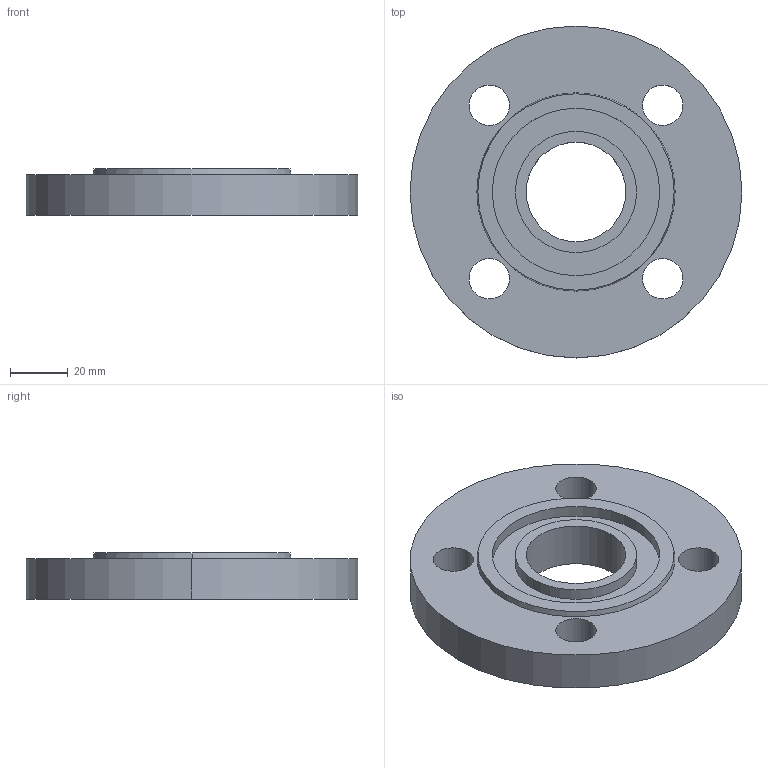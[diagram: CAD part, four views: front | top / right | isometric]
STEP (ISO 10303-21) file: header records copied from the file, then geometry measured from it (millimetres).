
FILE_DESCRIPTION (( 'STEP AP214' ), '1' );
FILE_NAME ('PN40 DN25 Type 01 - Type D Face.STEP', '2018-12-29T20:39:05', ( '' ), ( '' ), 'SwSTEP 2.0', 'SolidWorks 2019', '' );
FILE_SCHEMA (( 'AUTOMOTIVE_DESIGN' ));
Length unit declared in the file: millimetre
Products named in the file (1): PN40 DN25 Type 01 - Type D Face
Bounding box: 115 x 115 x 16 mm (x, y, z)
Volume: 124151.2 mm3; surface area: 28544.8 mm2
Topology: 1 solids, 1 shells, 23 faces, 54 edges, 36 vertices
Faces by surface type: cylinder 16, plane 5, cone 2
Entity records: 738 total; most frequent: DIRECTION 138, CARTESIAN_POINT 114, ORIENTED_EDGE 108, AXIS2_PLACEMENT_3D 60, EDGE_CURVE 54, CIRCLE 36, VERTEX_POINT 36, EDGE_LOOP 36
